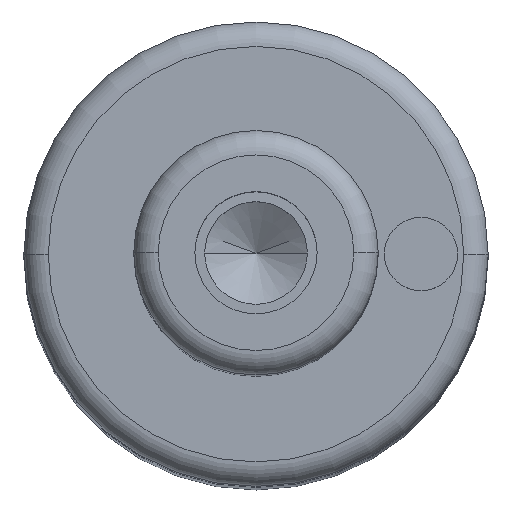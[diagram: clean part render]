
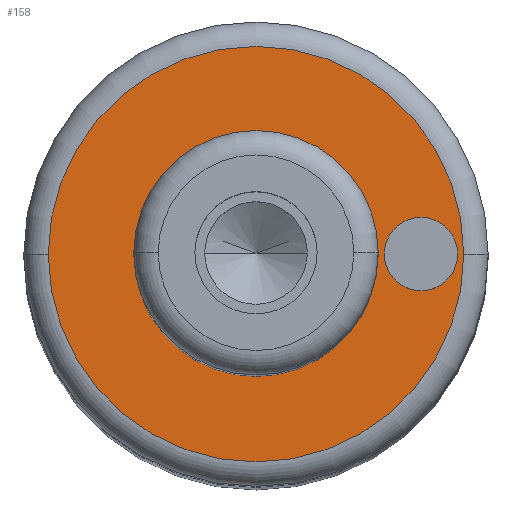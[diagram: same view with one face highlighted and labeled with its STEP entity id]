
A CAD part, top view. The second image highlights one B-rep face of the part: STEP entity #158.
In plain terms, the highlighted planar face has unit normal (0, 0, 1).
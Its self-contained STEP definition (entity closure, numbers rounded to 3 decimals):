
#105=PLANE('',#628);
#113=FACE_BOUND('',#229,.T.);
#114=FACE_BOUND('',#230,.T.);
#115=FACE_BOUND('',#231,.T.);
#158=ADVANCED_FACE('',(#113,#114,#115),#105,.T.);
#229=EDGE_LOOP('',(#375,#376));
#230=EDGE_LOOP('',(#377,#378));
#231=EDGE_LOOP('',(#379,#380));
#259=CIRCLE('',#596,5.);
#260=CIRCLE('',#598,5.);
#264=CIRCLE('',#603,8.5);
#265=CIRCLE('',#605,8.5);
#277=CIRCLE('',#626,1.5);
#278=CIRCLE('',#627,1.5);
#375=ORIENTED_EDGE('',*,*,#488,.F.);
#376=ORIENTED_EDGE('',*,*,#489,.F.);
#377=ORIENTED_EDGE('',*,*,#507,.F.);
#378=ORIENTED_EDGE('',*,*,#508,.F.);
#379=ORIENTED_EDGE('',*,*,#484,.T.);
#380=ORIENTED_EDGE('',*,*,#482,.T.);
#434=VERTEX_POINT('',#875);
#435=VERTEX_POINT('',#877);
#436=VERTEX_POINT('',#883);
#439=VERTEX_POINT('',#888);
#448=VERTEX_POINT('',#927);
#449=VERTEX_POINT('',#928);
#482=EDGE_CURVE('',#435,#434,#259,.T.);
#484=EDGE_CURVE('',#434,#435,#260,.T.);
#488=EDGE_CURVE('',#439,#436,#264,.T.);
#489=EDGE_CURVE('',#436,#439,#265,.T.);
#507=EDGE_CURVE('',#448,#449,#277,.T.);
#508=EDGE_CURVE('',#449,#448,#278,.T.);
#596=AXIS2_PLACEMENT_3D('',#876,#707,#708);
#598=AXIS2_PLACEMENT_3D('',#880,#712,#713);
#603=AXIS2_PLACEMENT_3D('',#889,#722,#723);
#605=AXIS2_PLACEMENT_3D('',#891,#726,#727);
#626=AXIS2_PLACEMENT_3D('',#926,#774,#775);
#627=AXIS2_PLACEMENT_3D('',#929,#776,#777);
#628=AXIS2_PLACEMENT_3D('',#930,#778,#779);
#707=DIRECTION('',(0.,0.,-1.));
#708=DIRECTION('',(0.,1.,0.));
#712=DIRECTION('',(0.,0.,-1.));
#713=DIRECTION('',(0.,-1.,0.));
#722=DIRECTION('',(0.,0.,-1.));
#723=DIRECTION('',(0.,1.,0.));
#726=DIRECTION('',(0.,0.,-1.));
#727=DIRECTION('',(0.,-1.,0.));
#774=DIRECTION('',(0.,0.,1.));
#775=DIRECTION('',(0.,1.,0.));
#776=DIRECTION('',(0.,0.,1.));
#777=DIRECTION('',(0.,-1.,0.));
#778=DIRECTION('',(0.,0.,1.));
#779=DIRECTION('',(0.,-1.,0.));
#875=CARTESIAN_POINT('',(-5.,0.,86.));
#876=CARTESIAN_POINT('',(0.,0.,86.));
#877=CARTESIAN_POINT('',(5.,0.,86.));
#880=CARTESIAN_POINT('',(0.,0.,86.));
#883=CARTESIAN_POINT('',(-8.5,0.,86.));
#888=CARTESIAN_POINT('',(8.5,0.,86.));
#889=CARTESIAN_POINT('',(0.,0.,86.));
#891=CARTESIAN_POINT('',(0.,0.,86.));
#926=CARTESIAN_POINT('',(6.75,0.,86.));
#927=CARTESIAN_POINT('',(5.25,0.,86.));
#928=CARTESIAN_POINT('',(8.25,0.,86.));
#929=CARTESIAN_POINT('',(6.75,0.,86.));
#930=CARTESIAN_POINT('',(0.,0.,86.));
